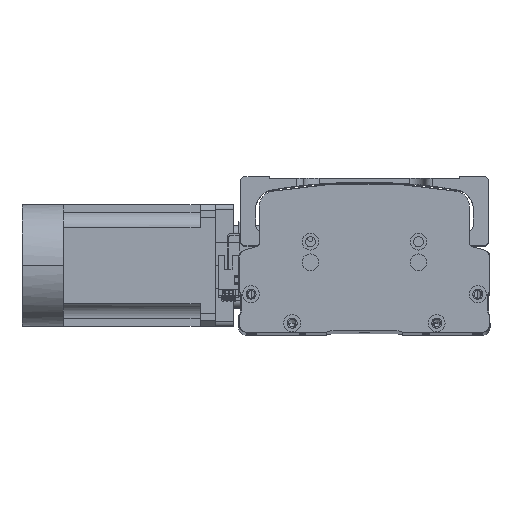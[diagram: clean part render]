
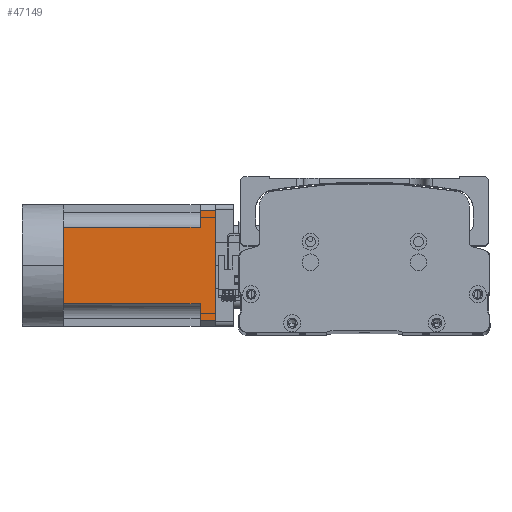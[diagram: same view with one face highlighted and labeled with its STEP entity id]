
A CAD part, top view. The second image highlights one B-rep face of the part: STEP entity #47149.
In plain terms, the highlighted planar face has unit normal (0, -0.003, 1) as drawn and (0, 0, -1) by its records, which use the part's own axes.
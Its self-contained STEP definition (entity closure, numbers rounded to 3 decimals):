
#637 = LINE ( 'NONE', #41196, #39657 ) ;
#716 = ORIENTED_EDGE ( 'NONE', *, *, #21531, .T. ) ;
#909 = LINE ( 'NONE', #19881, #11008 ) ;
#1026 = VERTEX_POINT ( 'NONE', #7355 ) ;
#1093 = LINE ( 'NONE', #4442, #37748 ) ;
#1197 = VECTOR ( 'NONE', #7147, 1000. ) ;
#1232 = VECTOR ( 'NONE', #11994, 1000. ) ;
#2691 = VERTEX_POINT ( 'NONE', #37001 ) ;
#2795 = VERTEX_POINT ( 'NONE', #41423 ) ;
#3281 = VERTEX_POINT ( 'NONE', #25529 ) ;
#3319 = CARTESIAN_POINT ( 'NONE',  ( -40., 90., -40. ) ) ;
#3372 = CARTESIAN_POINT ( 'NONE',  ( -40., 0., -40. ) ) ;
#3504 = DIRECTION ( 'NONE',  ( 0., 1., 0. ) ) ;
#4442 = CARTESIAN_POINT ( 'NONE',  ( 36., -27., -40. ) ) ;
#4645 = EDGE_CURVE ( 'NONE', #2691, #27839, #909, .T. ) ;
#4664 = CARTESIAN_POINT ( 'NONE',  ( -36., 100., -40. ) ) ;
#5423 = AXIS2_PLACEMENT_3D ( 'NONE', #18243, #33475, #10867 ) ;
#7042 = PLANE ( 'NONE',  #5423 ) ;
#7147 = DIRECTION ( 'NONE',  ( -1., 0., 0. ) ) ;
#7322 = EDGE_LOOP ( 'NONE', ( #9719, #45388, #46589, #11667, #12515, #44131, #716, #33700, #11744 ) ) ;
#7355 = CARTESIAN_POINT ( 'NONE',  ( -36., 90., -40. ) ) ;
#7529 = LINE ( 'NONE', #35674, #16369 ) ;
#8035 = VERTEX_POINT ( 'NONE', #29496 ) ;
#9614 = CARTESIAN_POINT ( 'NONE',  ( 25., 0., -40. ) ) ;
#9719 = ORIENTED_EDGE ( 'NONE', *, *, #33522, .F. ) ;
#10867 = DIRECTION ( 'NONE',  ( -1., 0., 0. ) ) ;
#11008 = VECTOR ( 'NONE', #42538, 1000. ) ;
#11295 = LINE ( 'NONE', #3319, #1197 ) ;
#11667 = ORIENTED_EDGE ( 'NONE', *, *, #41039, .T. ) ;
#11744 = ORIENTED_EDGE ( 'NONE', *, *, #40046, .T. ) ;
#11994 = DIRECTION ( 'NONE',  ( 0., 1., 0. ) ) ;
#12039 = EDGE_CURVE ( 'NONE', #36458, #2691, #16032, .T. ) ;
#12515 = ORIENTED_EDGE ( 'NONE', *, *, #12039, .T. ) ;
#14512 = CARTESIAN_POINT ( 'NONE',  ( 36., 90., -40. ) ) ;
#15369 = LINE ( 'NONE', #22782, #40220 ) ;
#16032 = LINE ( 'NONE', #3372, #43824 ) ;
#16369 = VECTOR ( 'NONE', #31879, 1000. ) ;
#18156 = DIRECTION ( 'NONE',  ( -1., 0., 0. ) ) ;
#18243 = CARTESIAN_POINT ( 'NONE',  ( -40., -27., -40. ) ) ;
#19881 = CARTESIAN_POINT ( 'NONE',  ( -40., 0., -40. ) ) ;
#21531 = EDGE_CURVE ( 'NONE', #27839, #2795, #637, .T. ) ;
#22782 = CARTESIAN_POINT ( 'NONE',  ( 25., -27., -40. ) ) ;
#25529 = CARTESIAN_POINT ( 'NONE',  ( 25., 90., -40. ) ) ;
#27839 = VERTEX_POINT ( 'NONE', #41981 ) ;
#29496 = CARTESIAN_POINT ( 'NONE',  ( 36., 100., -40. ) ) ;
#30874 = DIRECTION ( 'NONE',  ( 0., -1., 0. ) ) ;
#31370 = VECTOR ( 'NONE', #18156, 1000. ) ;
#31879 = DIRECTION ( 'NONE',  ( -1., 0., 0. ) ) ;
#32652 = EDGE_CURVE ( 'NONE', #8035, #43210, #1093, .T. ) ;
#33475 = DIRECTION ( 'NONE',  ( 0., 0., -1. ) ) ;
#33522 = EDGE_CURVE ( 'NONE', #8035, #47395, #7529, .T. ) ;
#33618 = DIRECTION ( 'NONE',  ( -1., 0., 0. ) ) ;
#33700 = ORIENTED_EDGE ( 'NONE', *, *, #40922, .T. ) ;
#35674 = CARTESIAN_POINT ( 'NONE',  ( -40., 100., -40. ) ) ;
#36458 = VERTEX_POINT ( 'NONE', #9614 ) ;
#37001 = CARTESIAN_POINT ( 'NONE',  ( 0., 0., -40. ) ) ;
#37748 = VECTOR ( 'NONE', #30874, 1000. ) ;
#38382 = CARTESIAN_POINT ( 'NONE',  ( -36., -27., -40. ) ) ;
#39657 = VECTOR ( 'NONE', #3504, 1000. ) ;
#39972 = FACE_OUTER_BOUND ( 'NONE', #7322, .T. ) ;
#40046 = EDGE_CURVE ( 'NONE', #1026, #47395, #40255, .T. ) ;
#40220 = VECTOR ( 'NONE', #41651, 1000. ) ;
#40255 = LINE ( 'NONE', #38382, #1232 ) ;
#40922 = EDGE_CURVE ( 'NONE', #2795, #1026, #11295, .T. ) ;
#41039 = EDGE_CURVE ( 'NONE', #3281, #36458, #15369, .T. ) ;
#41196 = CARTESIAN_POINT ( 'NONE',  ( -25., -27., -40. ) ) ;
#41423 = CARTESIAN_POINT ( 'NONE',  ( -25., 90., -40. ) ) ;
#41428 = LINE ( 'NONE', #44612, #31370 ) ;
#41651 = DIRECTION ( 'NONE',  ( 0., -1., 0. ) ) ;
#41981 = CARTESIAN_POINT ( 'NONE',  ( -25., 0., -40. ) ) ;
#42538 = DIRECTION ( 'NONE',  ( -1., 0., 0. ) ) ;
#43210 = VERTEX_POINT ( 'NONE', #14512 ) ;
#43824 = VECTOR ( 'NONE', #33618, 1000. ) ;
#44131 = ORIENTED_EDGE ( 'NONE', *, *, #4645, .T. ) ;
#44426 = EDGE_CURVE ( 'NONE', #43210, #3281, #41428, .T. ) ;
#44612 = CARTESIAN_POINT ( 'NONE',  ( -40., 90., -40. ) ) ;
#45388 = ORIENTED_EDGE ( 'NONE', *, *, #32652, .T. ) ;
#46589 = ORIENTED_EDGE ( 'NONE', *, *, #44426, .T. ) ;
#47149 = ADVANCED_FACE ( 'NONE', ( #39972 ), #7042, .T. ) ;
#47395 = VERTEX_POINT ( 'NONE', #4664 ) ;
